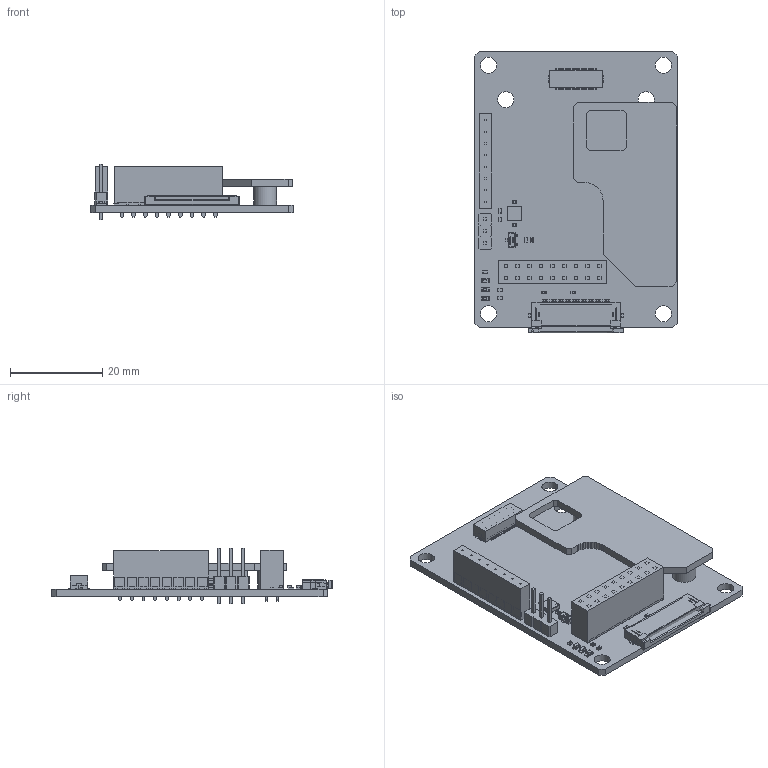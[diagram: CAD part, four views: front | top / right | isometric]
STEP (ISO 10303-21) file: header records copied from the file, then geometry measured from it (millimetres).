
FILE_DESCRIPTION(('Open CASCADE Model'),'2;1');
FILE_NAME('Open CASCADE Shape Model','2020-09-01T10:47:21',('Author'),( 'Open CASCADE'),'Open CASCADE STEP processor 6.8','Open CASCADE 6.8' ,'Unknown');
FILE_SCHEMA(('AUTOMOTIVE_DESIGN { 1 0 10303 214 1 1 1 1 }'));
Length unit declared in the file: millimetre
Products named in the file (88): PCB; Board; C1; C0402; 1358718944; Extruded; C2; C3; CN5; 541043033; Open CASCADE STEP translator 6.8 1.5.1.1; Open CASCADE STEP translator 6.8 1.5.1.2; 1358720304; 1358720440; CN2; CLM-120-02-L-D; _CLM-120-02-L-D_socket; _C-20-02_pins; 1358720848; Cylinder; 1358720984; 1358721120; 1358721256; CN3; TSW-108-07-G-S; _TSW-108-07-G-S_body; _T-1S6-07-TSW-1-07-8-S; 1358720576; JP1; 1358721392; 1358721528; 1358721664; R2; R0402; 1358721800; R4; R3; SB1; 1358718808; T1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
Assembly tree (152 placements, depth 4):
  PCB
    Board
    C1
      C0402
      1358718944
        Extruded
    C2
      C0402
      1358718944
        Extruded
    C3
      C0402
      1358718944
        Extruded
    CN5
      541043033
        Open CASCADE STEP translator 6.8 1.5.1.1
        Open CASCADE STEP translator 6.8 1.5.1.2
      1358720304
        Extruded
      1358720440  x30
        Extruded
    CN2
      CLM-120-02-L-D
        _CLM-120-02-L-D_socket
        _C-20-02_pins
      1358720848  x2
        Cylinder
      1358720984
      1358721120
        Extruded
      1358721256
        Extruded
    CN3
      TSW-108-07-G-S
        _TSW-108-07-G-S_body
        _T-1S6-07-TSW-1-07-8-S
      1358720576
        Extruded
    JP1
      1358721392  x3
        Extruded
      1358721528  x3
        Extruded
      1358721664
        Extruded
    R2
      R0402
      1358721800
        Extruded
    R4
      R0402
      1358721800
        Extruded
    R3
      R0402
      1358721800
        Extruded
    SB1
      R0402
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Bounding box: 44 x 61.08 x 12.14 mm (x, y, z)
Volume: 8739.3 mm3; surface area: 13648.8 mm2
Topology: 117 solids, 117 shells, 6902 faces, 18119 edges, 11375 vertices
Faces by surface type: plane 4523, cylinder 1306, bspline 595, sphere 379, torus 63, revolution 32, cone 4
Full cylindrical faces by diameter (mm): 0.2 x3, 0.6 x2, 1 x8, 1.05 x3, 1.1 x18, 3.2 x2, 3.5 x6, 5 x2
Entity records: 170862 total; most frequent: CARTESIAN_POINT 36564, ORIENTED_EDGE 25694, DIRECTION 22955, EDGE_CURVE 12847, LINE 11439, VECTOR 11439, VERTEX_POINT 8329, AXIS2_PLACEMENT_3D 5754
